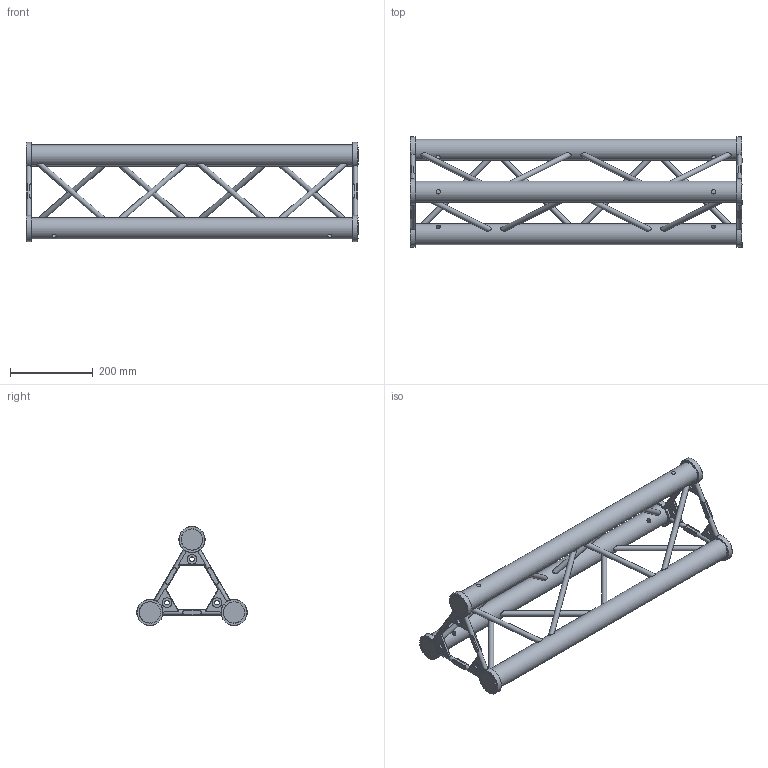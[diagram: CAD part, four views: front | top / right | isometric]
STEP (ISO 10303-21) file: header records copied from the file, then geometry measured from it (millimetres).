
FILE_DESCRIPTION(/* description */ (''),/* implementation_level */ '2;1');
FILE_NAME(/* name */ 'C:\Users\stephan\Desktop\A03\112040013.stp',/* time_stamp */ '2016-01-20T14:03:32+01:00',/* author */ ('Stephan'),/* organization */ (''),/* preprocessor_version */ 'ST-DEVELOPER v15.6',/* originating_system */ 'Autodesk Inventor 2015',/* authorisation */ '');
FILE_SCHEMA (('AUTOMOTIVE_DESIGN { 1 0 10303 214 3 1 1 }'));
Length unit declared in the file: millimetre
Products named in the file (1): 160025605
Bounding box: 800 x 266.3 x 239.1 mm (x, y, z)
Volume: 5398604.4 mm3; surface area: 598163.6 mm2
Topology: 19 solids, 19 shells, 289 faces, 669 edges, 432 vertices
Faces by surface type: plane 150, cylinder 115, cone 12, torus 12
Full cylindrical faces by diameter (mm): 10.5 x6, 11.5 x12, 12.7 x12, 23.5 x6, 50.8 x3, 51.3 x6, 63.3 x6
Entity records: 9505 total; most frequent: CARTESIAN_POINT 2906, DIRECTION 1236, ORIENTED_EDGE 1200, EDGE_CURVE 576, AXIS2_PLACEMENT_3D 498, EDGE_LOOP 432, VERTEX_POINT 408, STYLED_ITEM 288
